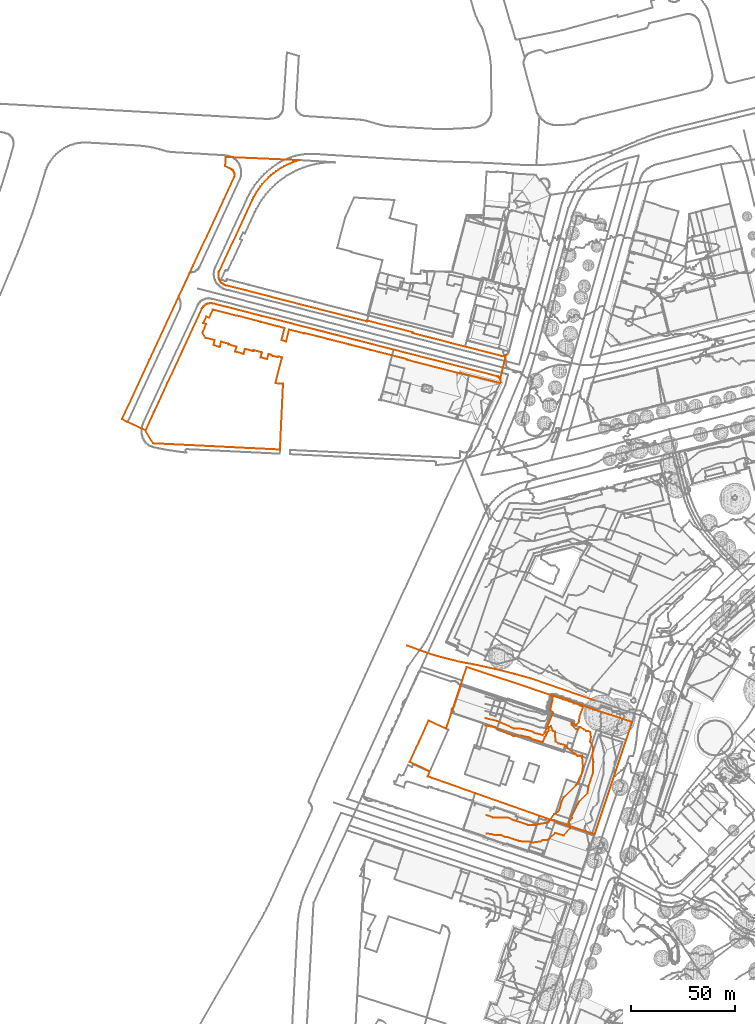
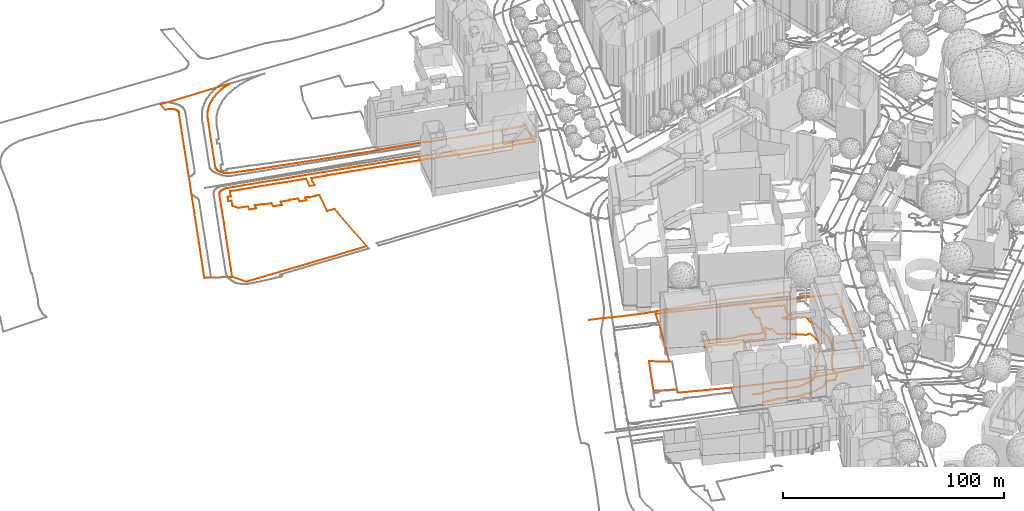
# Not in any storey, part 97 of 494: 6 proxies.
"""IFC2X3 model written with IfcOpenShell, lengths in metres."""

from ifc_helpers import new_model, entity, si_unit, frame, origin_with_axes, place, context, subcontext, project, element, save


model = new_model("IFC2X3")

# Units and contexts
model_context = context("Model", 3, precision=1e-05, world=origin_with_axes())
body_context = subcontext(model_context, "Body", "Model", "MODEL_VIEW")
ifc_project = project(units=[si_unit("AREAUNIT", "SQUARE_METRE"), si_unit("LENGTHUNIT", "METRE")], contexts=[model_context])

# Proxies
proxy_1_placement = place(None, frame((-39.2582679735, 219.5317364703, 532.933), z_axis=(0.0, 0.0, 1.0), x_axis=(1.0, 0.0, 0.0)))
element("IfcBuildingElementProxy", 1, at=proxy_1_placement, Name="Road 80", ObjectType="NOTDEFINED", context=body_context, shape_type="GeometricCurveSet", body=[
    entity("IfcGeometricCurveSet", [entity("IfcPolyline", [entity("IfcCartesianPoint", [0.0, 0.0, 0.0]), entity("IfcCartesianPoint", [6.5230000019, -2.3349999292, 0.194]), entity("IfcCartesianPoint", [13.4310000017, -4.7779998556, 0.094]), entity("IfcCartesianPoint", [25.2050000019, -7.820999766, -0.344]), entity("IfcCartesianPoint", [32.6140000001, -9.144999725, -0.571]), entity("IfcCartesianPoint", [42.1390000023, -11.2609996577, -0.419]), entity("IfcCartesianPoint", [52.4570000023, -13.7749995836, -0.249]), entity("IfcCartesianPoint", [60.3949999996, -16.0229995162, -0.284]), entity("IfcCartesianPoint", [90.5280000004, -26.4119991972, -0.048])])]),
])
proxy_2_placement = place(None, frame((-165.2052679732, 323.3597160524, 537.8462944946), z_axis=(0.0, 0.0, 1.0), x_axis=(1.0, 0.0, 0.0)))
element("IfcBuildingElementProxy", 2, at=proxy_2_placement, Name="Roads Outline 2", ObjectType="NOTDEFINED", context=body_context, shape_type="GeometricCurveSet", body=[
    entity("IfcGeometricCurveSet", [entity("IfcPolyline", [entity("IfcCartesianPoint", [0.0, 0.0, 0.0]), entity("IfcCartesianPoint", [3.9569999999, 8.5430000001, 0.3406864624]), entity("IfcCartesianPoint", [10.5580000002, 22.7960000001, 0.6708145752]), entity("IfcCartesianPoint", [17.656, 38.0789999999, 0.8039125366]), entity("IfcCartesianPoint", [27.1340000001, 58.544, 0.5523955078]), entity("IfcCartesianPoint", [27.4070000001, 59.0519999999, 0.5489538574]), entity("IfcCartesianPoint", [27.736, 59.5260000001, 0.5449683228]), entity("IfcCartesianPoint", [28.1179999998, 59.9580000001, 0.5404859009]), entity("IfcCartesianPoint", [28.5469999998, 60.344, 0.5337475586]), entity("IfcCartesianPoint", [29.0180000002, 60.6780000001, 0.5026185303]), entity("IfcCartesianPoint", [29.5239999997, 60.9550000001, 0.4768019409]), entity("IfcCartesianPoint", [30.0589999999, 61.1710000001, 0.4566705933]), entity("IfcCartesianPoint", [30.6159999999, 61.324, 0.4427814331]), entity("IfcCartesianPoint", [31.1859999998, 61.4110000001, 0.437152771]), entity("IfcCartesianPoint", [31.7629999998, 61.432, 0.4357941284]), entity("IfcCartesianPoint", [32.338, 61.3870000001, 0.4387055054]), entity("IfcCartesianPoint", [32.9040000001, 61.2749999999, 0.4469777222]), entity("IfcCartesianPoint", [44.9640000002, 58.1850000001, 0.5562119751]), entity("IfcCartesianPoint", [56.145, 55.3160000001, 0.6071689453]), entity("IfcCartesianPoint", [70.145, 51.737, 0.670701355]), entity("IfcCartesianPoint", [88.5660000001, 47.017, 0.7545083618]), entity("IfcCartesianPoint", [98.977, 44.348, 0.8018543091]), entity("IfcCartesianPoint", [109.3870000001, 41.6780000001, 0.8490040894]), entity("IfcCartesianPoint", [119.818, 39.0090000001, 0.8613307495]), entity("IfcCartesianPoint", [169.7220000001, 26.2220000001, 0.9408708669]), entity("IfcCartesianPoint", [170.071, 26.135, 0.9435701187]), entity("IfcCartesianPoint", [170.3989999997, 25.986, 0.9522723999]), entity("IfcCartesianPoint", [170.6949999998, 25.781, 0.9579215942]), entity("IfcCartesianPoint", [170.949, 25.5260000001, 0.9555801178]), entity("IfcCartesianPoint", [171.1540000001, 25.23, 0.9467651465]), entity("IfcCartesianPoint", [171.3020000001, 24.902, 0.9421559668]), entity("IfcCartesianPoint", [171.4410000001, 24.5009999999, 0.9431932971]), entity("IfcCartesianPoint", [171.5109999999, 24.0830000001, 0.9526378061]), entity("IfcCartesianPoint", [171.5090000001, 23.659, 0.9652285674]), entity("IfcCartesianPoint", [171.4359999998, 23.2409999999, 0.9768661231]), entity("IfcCartesianPoint", [171.2930000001, 22.8419999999, 0.9590090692]), entity("IfcCartesianPoint", [152.0, 27.7679999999, 0.7652885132]), entity("IfcCartesianPoint", [151.9249999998, 27.477, 0.7587523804]), entity("IfcCartesianPoint", [126.1689999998, 34.1159999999, 0.9353180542]), entity("IfcCartesianPoint", [126.2429999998, 34.4070000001, 0.9225731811]), entity("IfcCartesianPoint", [119.111, 36.226, 0.7396747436]), entity("IfcCartesianPoint", [108.673, 38.878, 0.8530632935]), entity("IfcCartesianPoint", [98.2629999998, 41.547, 0.8512748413]), entity("IfcCartesianPoint", [87.8470000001, 44.1980000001, 0.8045162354]), entity("IfcCartesianPoint", [76.7080000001, 47.04, 0.7540998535]), entity("IfcCartesianPoint", [76.6609999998, 46.8559999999, 0.7573679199]), entity("IfcCartesianPoint", [69.3709999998, 48.703, 0.7245629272]), entity("IfcCartesianPoint", [67.915, 43.004, 0.8257231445]), entity("IfcCartesianPoint", [65.6859999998, 43.575, 0.8155814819]), entity("IfcCartesianPoint", [67.196, 49.429, 0.7116682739]), entity("IfcCartesianPoint", [55.554, 52.4310000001, 0.6584100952]), entity("IfcCartesianPoint", [55.5690000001, 52.4890000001, 0.6573799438]), entity("IfcCartesianPoint", [55.4330000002, 52.524, 0.6567583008]), entity("IfcCartesianPoint", [44.2650000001, 55.425, 0.6052329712]), entity("IfcCartesianPoint", [43.9550000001, 55.5050000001, 0.6038120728]), entity("IfcCartesianPoint", [43.8479999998, 55.5330000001, 0.6033147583]), entity("IfcCartesianPoint", [43.8279999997, 55.4550000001, 0.6047001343]), entity("IfcCartesianPoint", [32.537, 58.3659999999, 0.5536014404]), entity("IfcCartesianPoint", [30.7280000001, 54.3929999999, 0.623562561]), entity("IfcCartesianPoint", [29.3799999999, 55.007, 0.6126571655]), entity("IfcCartesianPoint", [27.9649999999, 51.899, 0.6678339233]), entity("IfcCartesianPoint", [29.3119999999, 51.2849999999, 0.6787034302]), entity("IfcCartesianPoint", [27.5159999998, 47.344, 0.7487004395]), entity("IfcCartesianPoint", [29.1209999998, 44.7180000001, 0.7953052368]), entity("IfcCartesianPoint", [33.4389999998, 43.605, 0.815048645]), entity("IfcCartesianPoint", [32.807, 41.175, 0.8570673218]), entity("IfcCartesianPoint", [35.9180000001, 40.3659999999, 0.8671896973]), entity("IfcCartesianPoint", [36.5499999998, 42.7960000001, 0.8294174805]), entity("IfcCartesianPoint", [40.3289999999, 41.8119999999, 0.8466813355]), entity("IfcCartesianPoint", [40.2409999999, 41.469, 0.8526268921]), entity("IfcCartesianPoint", [40.3659999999, 41.432, 0.8532682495]), entity("IfcCartesianPoint", [40.6660000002, 41.352, 0.8546549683]), entity("IfcCartesianPoint", [43.9500000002, 40.4650000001, 0.8659509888]), entity("IfcCartesianPoint", [43.3199999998, 38.0449999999, 0.8019535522]), entity("IfcCartesianPoint", [47.3939999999, 36.983, 0.7501932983]), entity("IfcCartesianPoint", [48.0249999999, 39.402, 0.8792514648]), entity("IfcCartesianPoint", [51.835, 38.4080000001, 0.8234014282]), entity("IfcCartesianPoint", [52.2349999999, 38.3060000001, 0.8169916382]), entity("IfcCartesianPoint", [52.3339999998, 38.6939999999, 0.8414509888]), entity("IfcCartesianPoint", [56.2289999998, 37.7, 0.7820756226]), entity("IfcCartesianPoint", [55.6099999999, 35.277, 0.8385680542]), entity("IfcCartesianPoint", [58.7779999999, 34.4669999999, 0.9167797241]), entity("IfcCartesianPoint", [59.3969999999, 36.8899999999, 0.7475084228]), entity("IfcCartesianPoint", [61.0049999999, 36.4790000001, 0.7356430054]), entity("IfcCartesianPoint", [60.906, 36.091, 0.753781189]), entity("IfcCartesianPoint", [63.9479999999, 35.3130000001, 0.8350761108]), entity("IfcCartesianPoint", [64.0639999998, 35.7649999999, 0.7878456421]), entity("IfcCartesianPoint", [65.9410000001, 35.273, 0.8389542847]), entity("IfcCartesianPoint", [62.7599999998, 22.8130000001, 0.6711040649]), entity("IfcCartesianPoint", [66.469, 22.5430000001, 0.6665062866]), entity("IfcCartesianPoint", [66.3190000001, 19.3600000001, 0.567588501]), entity("IfcCartesianPoint", [64.9720000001, -9.236, -0.1319627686]), entity("IfcCartesianPoint", [50.5120000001, -8.537, -0.1791548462]), entity("IfcCartesianPoint", [37.8119999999, -7.898, -0.1651923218]), entity("IfcCartesianPoint", [22.7409999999, -7.159, -0.1547057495]), entity("IfcCartesianPoint", [3.7609999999, -6.2209999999, -0.1381160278]), entity("IfcCartesianPoint", [0.0, 0.0, 0.0])])]),
])
proxy_3_placement = place(None, frame((-37.6202679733, 163.1717160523, 527.4284658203), z_axis=(0.0, 0.0, 1.0), x_axis=(1.0, 0.0, 0.0)))
element("IfcBuildingElementProxy", 3, at=proxy_3_placement, Name="Cadastre 84", ObjectType="NOTDEFINED", context=body_context, shape_type="GeometricCurveSet", body=[
    entity("IfcGeometricCurveSet", [entity("IfcPolyline", [entity("IfcCartesianPoint", [0.0, 0.0, 0.0]), entity("IfcCartesianPoint", [4.5610000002, 10.0020000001, 0.302003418]), entity("IfcCartesianPoint", [9.122, 20.0040000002, 1.0836679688]), entity("IfcCartesianPoint", [17.602, 16.125, 0.1462164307]), entity("IfcCartesianPoint", [24.6439999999, 37.25, 5.1006675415]), entity("IfcCartesianPoint", [25.335, 39.3360000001, 5.0652272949]), entity("IfcCartesianPoint", [27.5120000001, 45.9010000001, 5.1338758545]), entity("IfcCartesianPoint", [107.432, 19.3030000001, 4.1751047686]), entity("IfcCartesianPoint", [89.3160000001, -34.899, 2.8501696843]), entity("IfcCartesianPoint", [67.9750000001, -27.862, 0.7380044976]), entity("IfcCartesianPoint", [62.7239999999, -26.0029999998, 0.1976872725]), entity("IfcCartesianPoint", [31.662, -15.027, -0.2038979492]), entity("IfcCartesianPoint", [10.9010000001, -7.699, 0.0999814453]), entity("IfcCartesianPoint", [8.71, -6.9199999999, 0.0979825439]), entity("IfcCartesianPoint", [9.7310000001, -4.439, 0.0814150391]), entity("IfcCartesianPoint", [0.0, 0.0, 0.0])])]),
])
proxy_4_placement = place(None, frame((-176.5862679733, 328.7697160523, 538.0802874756), z_axis=(0.0, 0.0, 1.0), x_axis=(1.0, 0.0, 0.0)))
element("IfcBuildingElementProxy", 4, at=proxy_4_placement, Name="Cadastre 109", ObjectType="NOTDEFINED", context=body_context, shape_type="GeometricCurveSet", body=[
    entity("IfcGeometricCurveSet", [entity("IfcPolyline", [entity("IfcCartesianPoint", [0.0, 0.0, 0.0]), entity("IfcCartesianPoint", [13.2170000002, 28.527, 0.7045152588]), entity("IfcCartesianPoint", [34.3429999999, 74.108, 1.2457991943]), entity("IfcCartesianPoint", [49.2089999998, 106.1850000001, 1.375401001]), entity("IfcCartesianPoint", [54.1779999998, 116.8970000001, 1.375401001]), entity("IfcCartesianPoint", [54.341, 117.338, 1.375401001]), entity("IfcCartesianPoint", [54.4330000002, 117.7990000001, 1.375401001]), entity("IfcCartesianPoint", [54.452, 118.2690000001, 1.375401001]), entity("IfcCartesianPoint", [54.398, 118.736, 1.375401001]), entity("IfcCartesianPoint", [54.2710000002, 119.189, 1.375401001]), entity("IfcCartesianPoint", [54.0750000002, 119.6170000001, 1.375401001]), entity("IfcCartesianPoint", [53.8140000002, 120.0080000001, 1.375401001]), entity("IfcCartesianPoint", [53.4959999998, 120.355, 1.375401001]), entity("IfcCartesianPoint", [53.128, 120.6470000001, 1.375401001]), entity("IfcCartesianPoint", [52.7179999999, 120.878, 1.375401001]), entity("IfcCartesianPoint", [49.9180000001, 122.1780000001, 1.375401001]), entity("IfcCartesianPoint", [50.1869999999, 126.669, 1.375401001]), entity("IfcCartesianPoint", [85.5270000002, 125.1430000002, 1.375401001]), entity("IfcCartesianPoint", [84.0619999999, 124.6900000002, 1.375401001]), entity("IfcCartesianPoint", [82.6170000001, 124.175, 1.375401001]), entity("IfcCartesianPoint", [81.196, 123.5970000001, 1.375401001]), entity("IfcCartesianPoint", [79.801, 122.9600000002, 1.375401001]), entity("IfcCartesianPoint", [78.4350000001, 122.263, 1.375401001]), entity("IfcCartesianPoint", [77.1000000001, 121.5080000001, 1.375401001]), entity("IfcCartesianPoint", [75.7990000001, 120.6970000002, 1.375401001]), entity("IfcCartesianPoint", [74.5329999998, 119.8300000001, 1.375401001]), entity("IfcCartesianPoint", [73.3059999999, 118.9100000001, 1.375401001]), entity("IfcCartesianPoint", [72.1200000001, 117.9380000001, 1.375401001]), entity("IfcCartesianPoint", [70.9759999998, 116.9160000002, 1.375401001]), entity("IfcCartesianPoint", [69.878, 115.8460000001, 1.375401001]), entity("IfcCartesianPoint", [68.8259999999, 114.73, 1.375401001]), entity("IfcCartesianPoint", [67.8229999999, 113.5700000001, 1.375401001]), entity("IfcCartesianPoint", [66.8709999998, 112.368, 1.375401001]), entity("IfcCartesianPoint", [65.9709999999, 111.1260000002, 1.375401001]), entity("IfcCartesianPoint", [65.1260000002, 109.8460000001, 1.375401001]), entity("IfcCartesianPoint", [64.3360000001, 108.5320000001, 1.375401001]), entity("IfcCartesianPoint", [63.6030000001, 107.1840000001, 1.375401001]), entity("IfcCartesianPoint", [62.929, 105.807, 1.375401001]), entity("IfcCartesianPoint", [47.0630000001, 71.5480000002, 1.2092193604]), entity("IfcCartesianPoint", [46.835, 70.9640000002, 1.2006646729]), entity("IfcCartesianPoint", [46.6830000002, 70.3560000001, 1.2050308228]), entity("IfcCartesianPoint", [46.6069999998, 69.7340000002, 1.2173764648]), entity("IfcCartesianPoint", [46.6099999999, 69.1070000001, 1.2471497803]), entity("IfcCartesianPoint", [46.6919999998, 68.4850000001, 1.2696016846]), entity("IfcCartesianPoint", [46.8509999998, 67.8790000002, 1.286520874]), entity("IfcCartesianPoint", [47.0839999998, 67.297, 1.2635733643]), entity("IfcCartesianPoint", [47.3930000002, 66.7560000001, 1.2368438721]), entity("IfcCartesianPoint", [47.7659999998, 66.2580000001, 1.1986671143]), entity("IfcCartesianPoint", [48.199, 65.8100000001, 1.1606853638]), entity("IfcCartesianPoint", [48.6839999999, 65.419, 1.115079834]), entity("IfcCartesianPoint", [49.213, 65.0920000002, 1.076939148]), entity("IfcCartesianPoint", [49.7799999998, 64.8330000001, 1.0467215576]), entity("IfcCartesianPoint", [50.3739999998, 64.6470000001, 1.0250041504]), entity("IfcCartesianPoint", [59.6839999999, 62.2680000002, 0.6968875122]), entity("IfcCartesianPoint", [118.3769999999, 47.2200000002, 0.4208826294]), entity("IfcCartesianPoint", [118.477, 47.6100000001, 0.4139557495]), entity("IfcCartesianPoint", [140.548, 41.9510000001, 0.5144055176]), entity("IfcCartesianPoint", [140.4479999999, 41.561, 0.5213323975]), entity("IfcCartesianPoint", [165.7889999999, 35.0620000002, 0.6318704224]), entity("IfcCartesianPoint", [183.3110000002, 30.574, 0.8355214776]), entity("IfcCartesianPoint", [183.7689999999, 30.4920000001, 0.8561127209]), entity("IfcCartesianPoint", [184.2340000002, 30.4810000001, 0.8952923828]), entity("IfcCartesianPoint", [184.6949999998, 30.5430000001, 0.9358133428]), entity("IfcCartesianPoint", [185.1409999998, 30.675, 0.9607049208]), entity("IfcCartesianPoint", [185.5610000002, 30.8740000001, 0.9820399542]), entity("IfcCartesianPoint", [182.6830000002, 19.4920000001, 0.7081629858]), entity("IfcCartesianPoint", [182.4670000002, 19.8560000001, 0.7159602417]), entity("IfcCartesianPoint", [182.1919999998, 20.179, 0.7253186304]), entity("IfcCartesianPoint", [181.8670000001, 20.4510000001, 0.723605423]), entity("IfcCartesianPoint", [181.5, 20.6640000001, 0.7119359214]), entity("IfcCartesianPoint", [181.1030000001, 20.8120000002, 0.7068778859]), entity("IfcCartesianPoint", [131.199, 33.5990000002, 0.6273377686]), entity("IfcCartesianPoint", [120.7680000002, 36.2680000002, 0.6150111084]), entity("IfcCartesianPoint", [81.5260000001, 46.327, 0.436708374]), entity("IfcCartesianPoint", [67.5260000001, 49.9060000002, 0.3731759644]), entity("IfcCartesianPoint", [56.3450000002, 52.7750000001, 0.3222189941]), entity("IfcCartesianPoint", [44.2850000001, 55.865, 0.2129847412]), entity("IfcCartesianPoint", [43.719, 55.9770000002, 0.2047125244]), entity("IfcCartesianPoint", [43.1439999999, 56.0220000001, 0.2018011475]), entity("IfcCartesianPoint", [42.5669999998, 56.0010000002, 0.20315979]), entity("IfcCartesianPoint", [41.997, 55.9140000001, 0.2087884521]), entity("IfcCartesianPoint", [41.4399999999, 55.7610000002, 0.2226776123]), entity("IfcCartesianPoint", [40.9049999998, 55.5450000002, 0.24280896]), entity("IfcCartesianPoint", [40.3990000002, 55.2680000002, 0.2686255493]), entity("IfcCartesianPoint", [39.9279999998, 54.9340000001, 0.2997545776]), entity("IfcCartesianPoint", [39.4989999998, 54.5480000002, 0.3064929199]), entity("IfcCartesianPoint", [39.1170000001, 54.1160000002, 0.3109753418]), entity("IfcCartesianPoint", [38.7880000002, 53.642, 0.3149608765]), entity("IfcCartesianPoint", [38.5150000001, 53.1340000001, 0.3184025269]), entity("IfcCartesianPoint", [29.037, 32.669, 0.5699195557]), entity("IfcCartesianPoint", [21.9390000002, 17.3860000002, 0.4368215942]), entity("IfcCartesianPoint", [11.3810000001, -5.4099999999, -0.233992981]), entity("IfcCartesianPoint", [0.0, 0.0, 0.0])])]),
])
proxy_5_placement = place(None, frame((-0.8222679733, 137.6393507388, 528.0), z_axis=(0.0, 0.0, 1.0), x_axis=(1.0, 0.0, 0.0)))
element("IfcBuildingElementProxy", 5, at=proxy_5_placement, Name="Contour Line 528.0 m", ObjectType="NOTDEFINED", context=body_context, shape_type="GeometricCurveSet", body=[
    entity("IfcGeometricCurveSet", [entity("IfcPolyline", [entity("IfcCartesianPoint", [0.0, 0.0, 0.0]), entity("IfcCartesianPoint", [3.5, -1.1778545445, 0.0]), entity("IfcCartesianPoint", [10.5, -1.2392657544, 0.0]), entity("IfcCartesianPoint", [13.5, -2.554476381, 0.0]), entity("IfcCartesianPoint", [20.5, -4.812951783, 0.0]), entity("IfcCartesianPoint", [23.5, -4.7901563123, 0.0]), entity("IfcCartesianPoint", [29.5, -3.7234549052, 0.0]), entity("IfcCartesianPoint", [30.5, -3.2433723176, 0.0]), entity("IfcCartesianPoint", [33.0963409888, 0.5313653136, 0.0]), entity("IfcCartesianPoint", [35.0174578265, 1.5313653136, 0.0]), entity("IfcCartesianPoint", [35.8527635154, 3.5313653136, 0.0]), entity("IfcCartesianPoint", [36.5, 6.2252200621, 0.0]), entity("IfcCartesianPoint", [37.6599386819, 8.5313653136, 0.0]), entity("IfcCartesianPoint", [43.7241076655, 14.5313653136, 0.0]), entity("IfcCartesianPoint", [46.5382273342, 20.5313653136, 0.0]), entity("IfcCartesianPoint", [46.9512968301, 23.5313653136, 0.0]), entity("IfcCartesianPoint", [46.5, 28.7699572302, 0.0]), entity("IfcCartesianPoint", [44.4307411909, 28.5313653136, 0.0]), entity("IfcCartesianPoint", [43.436324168, 29.5313653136, 0.0]), entity("IfcCartesianPoint", [42.5, 29.8868598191, 0.0]), entity("IfcCartesianPoint", [39.1569602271, 32.5313653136, 0.0]), entity("IfcCartesianPoint", [38.5, 33.6261469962, 0.0]), entity("IfcCartesianPoint", [35.1437246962, 34.5313653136, 0.0]), entity("IfcCartesianPoint", [33.6707841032, 35.5313653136, 0.0]), entity("IfcCartesianPoint", [33.5, 40.1717594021, 0.0]), entity("IfcCartesianPoint", [32.5, 40.4448404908, 0.0]), entity("IfcCartesianPoint", [31.5, 42.815747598, 0.0]), entity("IfcCartesianPoint", [30.5, 42.3879863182, 0.0]), entity("IfcCartesianPoint", [30.2408814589, 40.5313653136, 0.0]), entity("IfcCartesianPoint", [29.5, 39.8948384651, 0.0]), entity("IfcCartesianPoint", [29.2456833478, 38.5313653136, 0.0]), entity("IfcCartesianPoint", [28.5, 37.4929037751, 0.0]), entity("IfcCartesianPoint", [27.5, 35.1765439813, 0.0]), entity("IfcCartesianPoint", [22.5, 36.4919594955, 0.0]), entity("IfcCartesianPoint", [21.5, 37.2195102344, 0.0]), entity("IfcCartesianPoint", [20.5, 37.5289547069, 0.0]), entity("IfcCartesianPoint", [16.5, 38.4306722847, 0.0]), entity("IfcCartesianPoint", [13.5, 38.1631499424, 0.0]), entity("IfcCartesianPoint", [10.5, 39.287652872, 0.0]), entity("IfcCartesianPoint", [4.5, 42.2560761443, 0.0]), entity("IfcCartesianPoint", [0.0, 43.2735922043, 0.0])])]),
])
proxy_6_placement = place(None, frame((-0.8222679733, 128.6796822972, 529.0), z_axis=(0.0, 0.0, 1.0), x_axis=(1.0, 0.0, 0.0)))
element("IfcBuildingElementProxy", 6, at=proxy_6_placement, Name="Contour Line 529.0 m", ObjectType="NOTDEFINED", context=body_context, shape_type="GeometricCurveSet", body=[
    entity("IfcGeometricCurveSet", [entity("IfcPolyline", [entity("IfcCartesianPoint", [0.0, 0.0, 0.0]), entity("IfcCartesianPoint", [2.5, -0.2619602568, 0.0]), entity("IfcCartesianPoint", [4.5, -0.8375973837, 0.0]), entity("IfcCartesianPoint", [7.5, -0.8290881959, 0.0]), entity("IfcCartesianPoint", [9.5, -1.8127951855, 0.0]), entity("IfcCartesianPoint", [10.5, -1.8118508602, 0.0]), entity("IfcCartesianPoint", [15.5, -3.5171540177, 0.0]), entity("IfcCartesianPoint", [17.5, -3.8346586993, 0.0]), entity("IfcCartesianPoint", [20.5, -3.7864122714, 0.0]), entity("IfcCartesianPoint", [22.5, -4.435026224, 0.0]), entity("IfcCartesianPoint", [26.5, -3.8251018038, 0.0]), entity("IfcCartesianPoint", [27.5, -3.2081127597, 0.0]), entity("IfcCartesianPoint", [29.5, -3.2232519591, 0.0]), entity("IfcCartesianPoint", [30.5, -2.7126902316, 0.0]), entity("IfcCartesianPoint", [33.5, 0.2402375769, 0.0]), entity("IfcCartesianPoint", [37.5, -0.9669101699, 0.0]), entity("IfcCartesianPoint", [40.6120689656, 2.4910337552, 0.0]), entity("IfcCartesianPoint", [40.7041254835, 3.4910337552, 0.0]), entity("IfcCartesianPoint", [40.2742564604, 5.4910337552, 0.0]), entity("IfcCartesianPoint", [40.6546932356, 6.4910337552, 0.0]), entity("IfcCartesianPoint", [41.6680280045, 7.4910337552, 0.0]), entity("IfcCartesianPoint", [41.4458077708, 8.4910337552, 0.0]), entity("IfcCartesianPoint", [44.5046012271, 14.4910337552, 0.0]), entity("IfcCartesianPoint", [45.1840527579, 15.4910337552, 0.0]), entity("IfcCartesianPoint", [49.1739659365, 19.4910337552, 0.0]), entity("IfcCartesianPoint", [49.5, 22.423645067, 0.0]), entity("IfcCartesianPoint", [51.8295628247, 29.4910337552, 0.0]), entity("IfcCartesianPoint", [51.7480826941, 33.4910337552, 0.0]), entity("IfcCartesianPoint", [51.9567126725, 34.4910337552, 0.0]), entity("IfcCartesianPoint", [51.5044025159, 37.4910337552, 0.0]), entity("IfcCartesianPoint", [51.8984786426, 41.4910337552, 0.0]), entity("IfcCartesianPoint", [50.4476472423, 44.4910337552, 0.0]), entity("IfcCartesianPoint", [50.8234200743, 46.4910337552, 0.0]), entity("IfcCartesianPoint", [50.5, 48.8691098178, 0.0]), entity("IfcCartesianPoint", [49.5279720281, 49.4910337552, 0.0]), entity("IfcCartesianPoint", [48.5, 49.4020129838, 0.0]), entity("IfcCartesianPoint", [47.5, 50.2601407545, 0.0]), entity("IfcCartesianPoint", [45.5, 51.3117591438, 0.0]), entity("IfcCartesianPoint", [44.5, 50.2505404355, 0.0]), entity("IfcCartesianPoint", [43.5, 50.3443115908, 0.0]), entity("IfcCartesianPoint", [41.4736972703, 52.4910337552, 0.0]), entity("IfcCartesianPoint", [41.5, 53.5177363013, 0.0]), entity("IfcCartesianPoint", [43.5, 52.4229969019, 0.0]), entity("IfcCartesianPoint", [44.7198233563, 53.4910337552, 0.0]), entity("IfcCartesianPoint", [45.1348122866, 54.4910337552, 0.0]), entity("IfcCartesianPoint", [45.2491838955, 56.4910337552, 0.0]), entity("IfcCartesianPoint", [47.1225310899, 61.4910337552, 0.0]), entity("IfcCartesianPoint", [45.5, 61.6668850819, 0.0]), entity("IfcCartesianPoint", [44.7700979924, 62.4910337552, 0.0]), entity("IfcCartesianPoint", [42.5, 62.8275297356, 0.0]), entity("IfcCartesianPoint", [41.8943941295, 63.4910337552, 0.0]), entity("IfcCartesianPoint", [40.5, 63.68624716, 0.0]), entity("IfcCartesianPoint", [39.5, 64.6185194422, 0.0]), entity("IfcCartesianPoint", [37.5, 64.7814172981, 0.0]), entity("IfcCartesianPoint", [36.5, 65.6545406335, 0.0]), entity("IfcCartesianPoint", [34.5, 65.7857179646, 0.0]), entity("IfcCartesianPoint", [32.5, 66.7127892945, 0.0]), entity("IfcCartesianPoint", [32.1414722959, 66.4910337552, 0.0]), entity("IfcCartesianPoint", [32.3819616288, 64.4910337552, 0.0]), entity("IfcCartesianPoint", [31.9317228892, 63.4910337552, 0.0]), entity("IfcCartesianPoint", [31.137152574, 59.4910337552, 0.0]), entity("IfcCartesianPoint", [32.4335612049, 58.4910337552, 0.0]), entity("IfcCartesianPoint", [28.5, 48.6579006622, 0.0]), entity("IfcCartesianPoint", [27.5, 47.5229391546, 0.0]), entity("IfcCartesianPoint", [23.6313412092, 48.4910337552, 0.0]), entity("IfcCartesianPoint", [22.5, 49.2073458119, 0.0]), entity("IfcCartesianPoint", [17.5, 50.5275330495, 0.0]), entity("IfcCartesianPoint", [13.5, 50.7523570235, 0.0]), entity("IfcCartesianPoint", [5.5, 54.3233729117, 0.0]), entity("IfcCartesianPoint", [0.0, 55.671523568, 0.0])])]),
])

save(model, "model.ifc")
